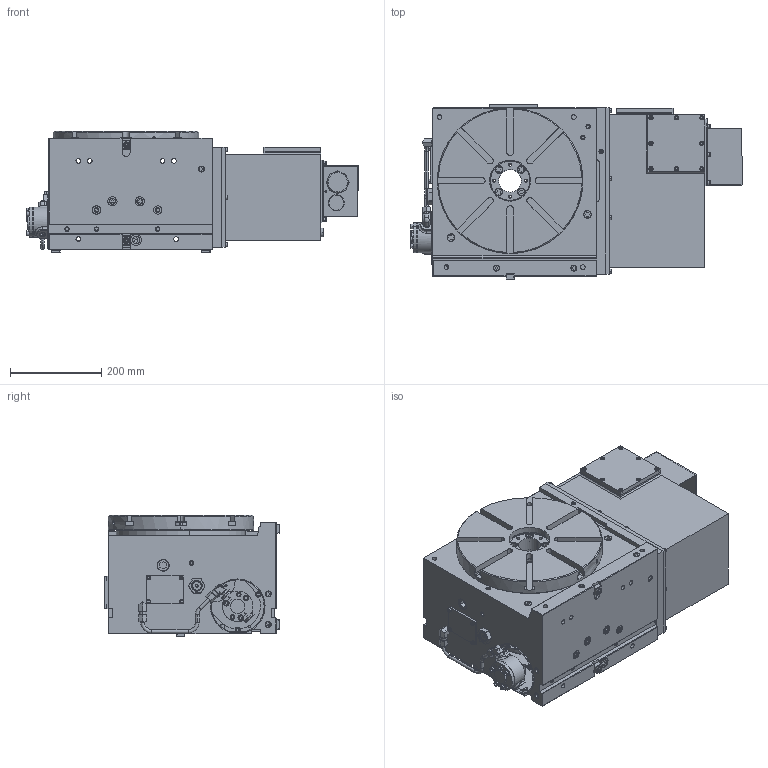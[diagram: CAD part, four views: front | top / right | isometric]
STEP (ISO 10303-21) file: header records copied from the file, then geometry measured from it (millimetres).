
FILE_DESCRIPTION (( 'STEP AP203' ), '1' );
FILE_NAME ('15121389 MT320R-3-52.STEP', '2020-12-05T05:34:01', ( '' ), ( '' ), 'SwSTEP 2.0', 'SolidWorks 2019', '' );
FILE_SCHEMA (( 'CONFIG_CONTROL_DESIGN' ));
Length unit declared in the file: millimetre
Products named in the file (1): 15121389 MT320R-3-52
Bounding box: 729.6 x 385 x 267 mm (x, y, z)
Surface area: 1397159.1 mm2 (no closed solid volume)
Topology: 0 solids, 142 shells, 1643 faces, 4881 edges, 3346 vertices
Faces by surface type: plane 955, cylinder 392, cone 283, torus 10, bspline 2, sphere 1
Entity records: 55457 total; most frequent: CARTESIAN_POINT 10854, DIRECTION 9624, ORIENTED_EDGE 7974, EDGE_CURVE 4879, VERTEX_POINT 3345, LINE 3290, VECTOR 3290, AXIS2_PLACEMENT_3D 3167
